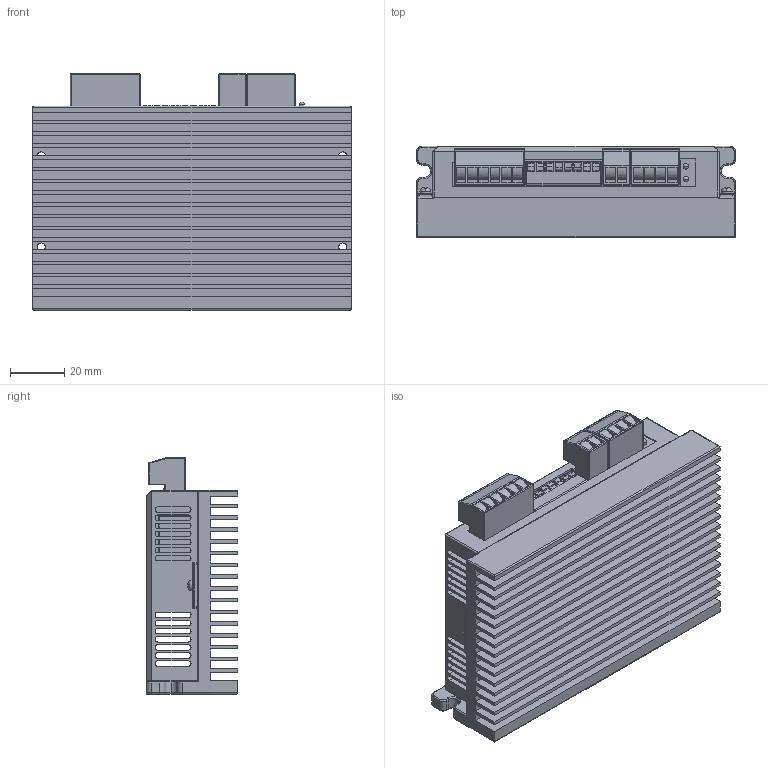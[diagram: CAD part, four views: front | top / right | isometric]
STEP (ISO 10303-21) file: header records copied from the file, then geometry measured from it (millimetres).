
FILE_DESCRIPTION(('FreeCAD Model'),'2;1');
FILE_NAME('Open CASCADE Shape Model','2023-10-23T09:52:23',('Author'),( ''),'Open CASCADE STEP processor 7.6','FreeCAD','Unknown');
FILE_SCHEMA(('AUTOMOTIVE_DESIGN { 1 0 10303 214 1 1 1 1 }'));
Length unit declared in the file: millimetre
Products named in the file (1): DMD5056
Bounding box: 118 x 34 x 87.4 mm (x, y, z)
Volume: 123783.7 mm3; surface area: 92005.9 mm2
Topology: 1 solids, 1 shells, 853 faces, 2227 edges, 1392 vertices
Faces by surface type: plane 526, cylinder 230, bspline 37, sphere 34, torus 22, revolution 4
Entity records: 31393 total; most frequent: CARTESIAN_POINT 5520, ORIENTED_EDGE 4374, DIRECTION 4227, EDGE_CURVE 2187, LINE 1535, VECTOR 1535, VERTEX_POINT 1392, AXIS2_PLACEMENT_3D 1344
